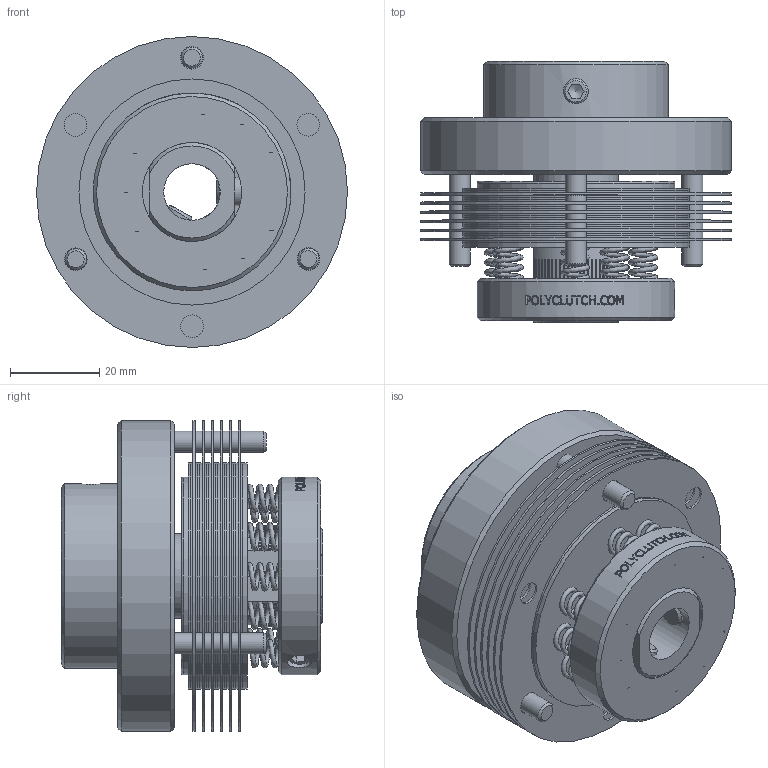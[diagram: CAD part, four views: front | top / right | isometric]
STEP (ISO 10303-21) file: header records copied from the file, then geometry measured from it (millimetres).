
FILE_DESCRIPTION((''),'2;1');
FILE_NAME('P:\Public\3-D CLUTCH ASSEMBLY FILES\SFS44\SFS44.stp','2013-01-22T07:49:08',('TodLob'),(''),'Autodesk Inventor 2011','Autodesk Inventor 2011','');
FILE_SCHEMA(('AUTOMOTIVE_DESIGN { 1 0 10303 214 1 1 1 1 }'));
Length unit declared in the file: inch
Products named in the file (13): SFS44; S3212-8; S4419; S4413; S4415; S4438; S4421; S4417-9F; S4409-8; S3223; S4414F; Hexagon Socket Set Screw - Flat Point - Inch 1/4-28 UNF x 0.64; Hexagon Socket Set Screw - Flat Point - Inch 1/4-28 UNF x 0.5
Assembly tree (45 placements, depth 2):
  SFS44
    S3212-8
    S4419
    S4413  x6
    S4415  x6
    S4438
    S4421  x12
    S4417-9F
    S4409-8
    S3223  x3
    S4414F  x9
    Hexagon Socket Set Screw - Flat Point - Inch 1/4-28 UNF x 0.64  x2
    Hexagon Socket Set Screw - Flat Point - Inch 1/4-28 UNF x 0.5  x2
Bounding box: 69.85 x 58.72 x 69.85 mm (x, y, z)
Volume: 109991.1 mm3; surface area: 138420.7 mm2
Topology: 270 solids, 270 shells, 2318 faces, 5104 edges, 3391 vertices
Faces by surface type: plane 2029, cylinder 144, bspline 109, cone 34, torus 2
Full cylindrical faces by diameter (mm): 4.75 x3, 4.763 x3, 5.105 x36, 5.41 x2, 5.613 x2, 6.35 x4, 6.528 x9, 12.7 x2, 19.05 x1, 19.075 x1, 22.276 x1, 22.352 x12, 24.206 x6, 41.529 x1, 44.45 x2, 50.8 x19, 69.85 x7
Entity records: 56193 total; most frequent: CARTESIAN_POINT 31507, ORIENTED_EDGE 4990, DIRECTION 4512, EDGE_CURVE 2495, VECTOR 1954, LINE 1954, VERTEX_POINT 1644, EDGE_LOOP 1329
